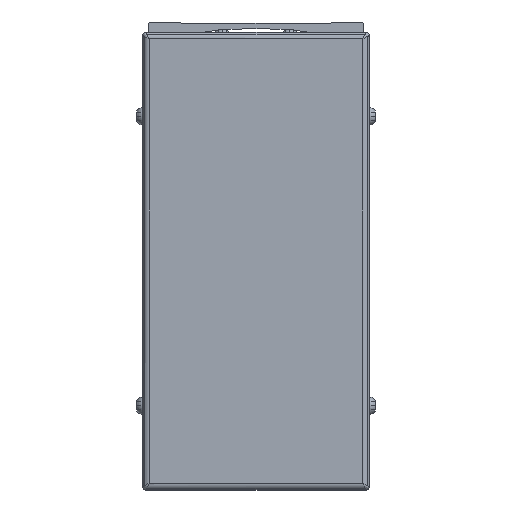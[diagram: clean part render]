
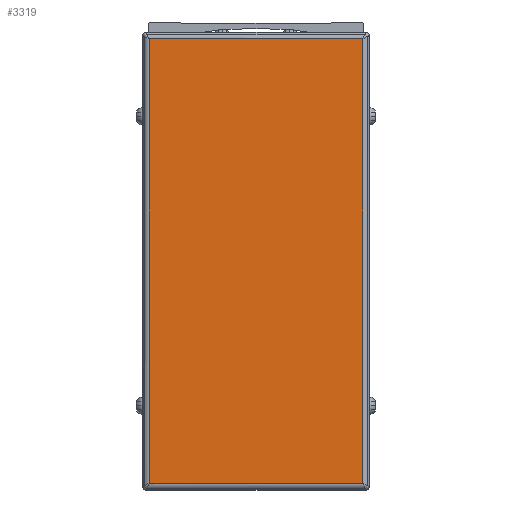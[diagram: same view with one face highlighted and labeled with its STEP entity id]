
A CAD part, front view. The second image highlights one B-rep face of the part: STEP entity #3319.
In plain terms, the highlighted planar face has unit normal (0, -1, 0).
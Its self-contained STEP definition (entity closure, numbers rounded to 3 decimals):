
#3319=ADVANCED_FACE('',(#7665),#7666,.T.);
#7665=FACE_OUTER_BOUND('',#13648,.T.);
#7666=PLANE('',#13649);
#13648=EDGE_LOOP('',(#23181,#23182,#23183,#23184));
#13649=AXIS2_PLACEMENT_3D('',#23185,#23186,#23187);
#23181=ORIENTED_EDGE('',*,*,#37105,.F.);
#23182=ORIENTED_EDGE('',*,*,#37106,.F.);
#23183=ORIENTED_EDGE('',*,*,#37107,.F.);
#23184=ORIENTED_EDGE('',*,*,#37108,.F.);
#23185=CARTESIAN_POINT('',(300.,6.,-44.));
#23186=DIRECTION('',(0.,-1.0,0.));
#23187=DIRECTION('',(0.,0.,1.0));
#37105=EDGE_CURVE('',#41375,#45509,#45510,.T.);
#37106=EDGE_CURVE('',#42350,#41375,#45511,.T.);
#37107=EDGE_CURVE('',#45512,#42350,#45513,.T.);
#37108=EDGE_CURVE('',#45509,#45512,#45514,.T.);
#41375=VERTEX_POINT('',#50993);
#42350=VERTEX_POINT('',#52374);
#45509=VERTEX_POINT('',#56829);
#45510=LINE('',#56830,#56831);
#45511=LINE('',#56832,#56833);
#45512=VERTEX_POINT('',#56834);
#45513=LINE('',#56835,#56836);
#45514=LINE('',#56837,#56838);
#50993=CARTESIAN_POINT('',(268.3,6.,22.));
#52374=CARTESIAN_POINT('',(268.3,6.,-110.));
#56829=CARTESIAN_POINT('',(331.7,6.,22.));
#56830=CARTESIAN_POINT('',(300.,6.,22.));
#56831=VECTOR('',#66625,10.0);
#56832=CARTESIAN_POINT('',(268.3,6.,-44.));
#56833=VECTOR('',#66626,10.0);
#56834=CARTESIAN_POINT('',(331.7,6.,-110.));
#56835=CARTESIAN_POINT('',(300.,6.,-110.));
#56836=VECTOR('',#66627,10.0);
#56837=CARTESIAN_POINT('',(331.7,6.,-44.));
#56838=VECTOR('',#66628,10.0);
#66625=DIRECTION('',(1.0,0.,0.));
#66626=DIRECTION('',(0.,0.,1.0));
#66627=DIRECTION('',(-1.0,0.,0.));
#66628=DIRECTION('',(0.,0.,-1.0));
